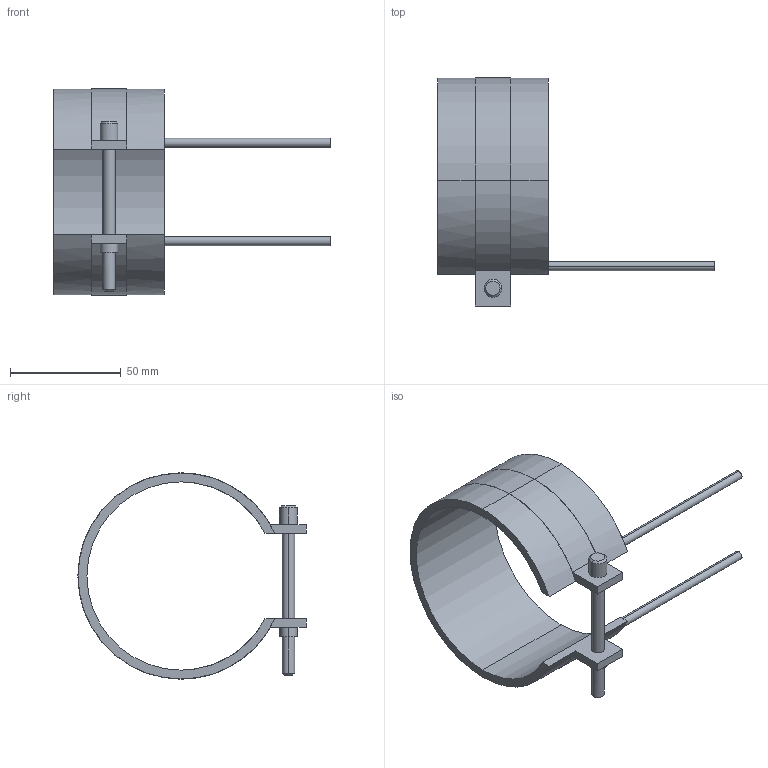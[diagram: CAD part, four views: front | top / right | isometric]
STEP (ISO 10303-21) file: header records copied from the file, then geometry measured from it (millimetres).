
FILE_DESCRIPTION(('CATIA V5 STEP Exchange'),'2;1');
FILE_NAME('C:\Users\Utente\Desktop\IO LAVORO\3D X SITO CF\X SITO\PLASTICA\RF2\14085050.stp','2021-04-06T16:15:48+00:00',('none'),('none'),'CATIA Version 5 Release 20 GA (IN-10)','CATIA V5 STEP AP203','none');
FILE_SCHEMA(('CONFIG_CONTROL_DESIGN'));
Length unit declared in the file: millimetre
Products named in the file (1): 14085050
Bounding box: 125 x 103.1 x 93.2 mm (x, y, z)
Volume: 54220.1 mm3; surface area: 30722.3 mm2
Topology: 1 solids, 1 shells, 45 faces, 116 edges, 76 vertices
Faces by surface type: cylinder 24, plane 17, cone 4
Entity records: 1418 total; most frequent: CARTESIAN_POINT 296, ORIENTED_EDGE 232, DIRECTION 194, EDGE_CURVE 116, AXIS2_PLACEMENT_3D 102, VERTEX_POINT 76, CIRCLE 60, VECTOR 52
